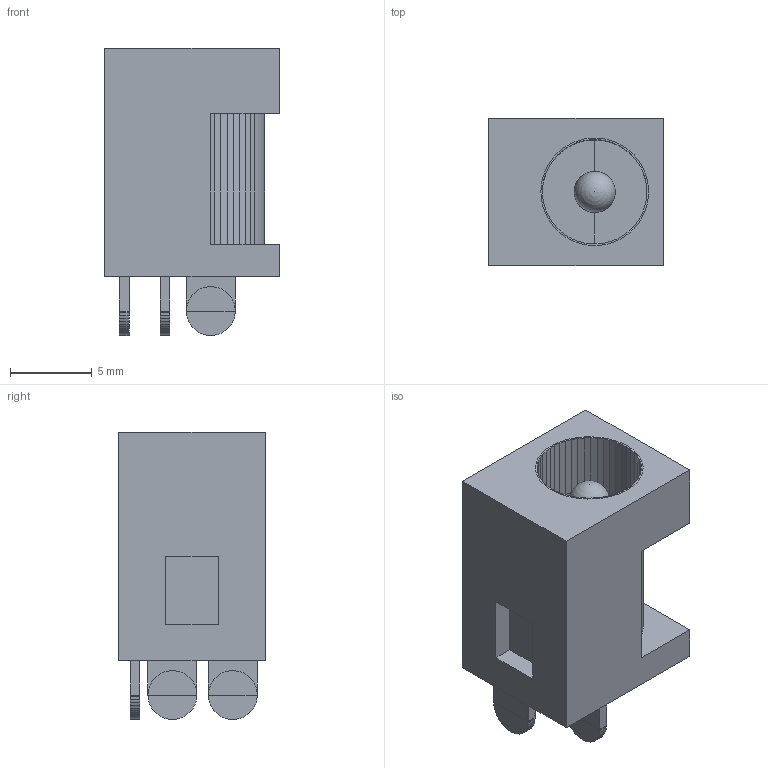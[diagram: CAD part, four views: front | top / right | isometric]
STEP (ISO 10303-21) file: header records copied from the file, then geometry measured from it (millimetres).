
FILE_DESCRIPTION(('FreeCAD Model'),'2;1');
FILE_NAME('Open CASCADE Shape Model','2021-06-28T20:02:19',('Author'),( ''),'Open CASCADE STEP processor 7.5','FreeCAD','Unknown');
FILE_SCHEMA(('AUTOMOTIVE_DESIGN { 1 0 10303 214 1 1 1 1 }'));
Length unit declared in the file: millimetre
Products named in the file (1): Group
Bounding box: 10.7 x 9 x 17.6 mm (x, y, z)
Volume: 849.4 mm3; surface area: 1156.6 mm2
Topology: 1 solids, 1 shells, 282 faces, 1068 edges, 793 vertices
Faces by surface type: plane 281, sphere 1
Entity records: 27378 total; most frequent: CARTESIAN_POINT 5151, DIRECTION 3444, LINE 2726, VECTOR 2726, ORIENTED_EDGE 2134, PCURVE 2134, DEFINITIONAL_REPRESENTATION 2134, EDGE_CURVE 1067
